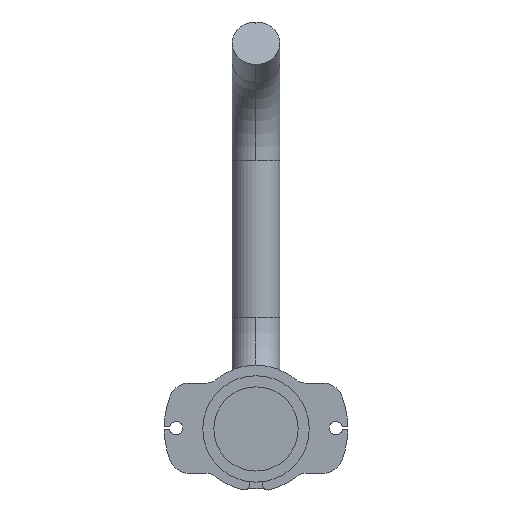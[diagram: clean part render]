
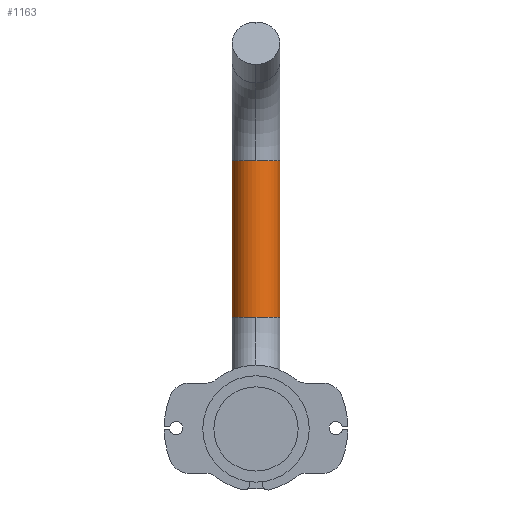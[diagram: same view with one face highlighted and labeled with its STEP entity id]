
A CAD part, front view. The second image highlights one B-rep face of the part: STEP entity #1163.
In plain terms, the highlighted cylindrical face has radius 9 mm (diameter 18 mm), a partial arc.
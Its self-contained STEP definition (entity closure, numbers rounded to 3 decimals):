
#227 = DIRECTION ( 'NONE',  ( 0., 0., 1. ) ) ;
#537 = CIRCLE ( 'NONE', #4687, 9. ) ;
#554 = VERTEX_POINT ( 'NONE', #846 ) ;
#661 = DIRECTION ( 'NONE',  ( 1., 0., 0. ) ) ;
#696 = CARTESIAN_POINT ( 'NONE',  ( -32.175, 97.484, 163.619 ) ) ;
#751 = DIRECTION ( 'NONE',  ( 0., -1., 0. ) ) ;
#846 = CARTESIAN_POINT ( 'NONE',  ( -14.175, 97.484, 163.619 ) ) ;
#986 = CARTESIAN_POINT ( 'NONE',  ( -23.175, 88.484, 163.619 ) ) ;
#1163 = ADVANCED_FACE ( 'NONE', ( #5720 ), #1294, .T. ) ;
#1233 = DIRECTION ( 'NONE',  ( 0., -1., 0. ) ) ;
#1294 = CYLINDRICAL_SURFACE ( 'NONE', #1598, 9. ) ;
#1468 = VECTOR ( 'NONE', #3498, 1000. ) ;
#1534 = EDGE_CURVE ( 'NONE', #6086, #4274, #3435, .T. ) ;
#1598 = AXIS2_PLACEMENT_3D ( 'NONE', #2642, #4044, #661 ) ;
#1642 = CIRCLE ( 'NONE', #5765, 9. ) ;
#1857 = ORIENTED_EDGE ( 'NONE', *, *, #5285, .F. ) ;
#1980 = ORIENTED_EDGE ( 'NONE', *, *, #4787, .T. ) ;
#2003 = VERTEX_POINT ( 'NONE', #986 ) ;
#2180 = CARTESIAN_POINT ( 'NONE',  ( -23.175, 97.484, 163.619 ) ) ;
#2187 = CARTESIAN_POINT ( 'NONE',  ( -23.175, 97.484, 222.426 ) ) ;
#2392 = EDGE_CURVE ( 'NONE', #554, #3535, #4880, .T. ) ;
#2402 = ORIENTED_EDGE ( 'NONE', *, *, #6161, .F. ) ;
#2406 = DIRECTION ( 'NONE',  ( 0., -1., 0. ) ) ;
#2460 = VECTOR ( 'NONE', #227, 1000. ) ;
#2584 = VERTEX_POINT ( 'NONE', #2953 ) ;
#2642 = CARTESIAN_POINT ( 'NONE',  ( -23.175, 97.484, 163.619 ) ) ;
#2797 = DIRECTION ( 'NONE',  ( 0., 0., -1. ) ) ;
#2852 = CARTESIAN_POINT ( 'NONE',  ( -23.175, 97.484, 222.426 ) ) ;
#2953 = CARTESIAN_POINT ( 'NONE',  ( -32.175, 97.484, 163.619 ) ) ;
#3035 = CARTESIAN_POINT ( 'NONE',  ( -14.175, 97.484, 163.619 ) ) ;
#3048 = LINE ( 'NONE', #696, #2460 ) ;
#3435 = CIRCLE ( 'NONE', #3741, 9. ) ;
#3498 = DIRECTION ( 'NONE',  ( 0., 0., 1. ) ) ;
#3535 = VERTEX_POINT ( 'NONE', #5983 ) ;
#3741 = AXIS2_PLACEMENT_3D ( 'NONE', #2852, #2797, #2406 ) ;
#3901 = AXIS2_PLACEMENT_3D ( 'NONE', #5202, #4316, #5231 ) ;
#3993 = ORIENTED_EDGE ( 'NONE', *, *, #1534, .T. ) ;
#4044 = DIRECTION ( 'NONE',  ( 0., 0., 1. ) ) ;
#4063 = ORIENTED_EDGE ( 'NONE', *, *, #2392, .T. ) ;
#4219 = ORIENTED_EDGE ( 'NONE', *, *, #5694, .F. ) ;
#4226 = CARTESIAN_POINT ( 'NONE',  ( -23.175, 88.484, 222.426 ) ) ;
#4274 = VERTEX_POINT ( 'NONE', #5970 ) ;
#4314 = EDGE_LOOP ( 'NONE', ( #1857, #2402, #4219, #4063, #1980, #3993 ) ) ;
#4316 = DIRECTION ( 'NONE',  ( 0., 0., -1. ) ) ;
#4687 = AXIS2_PLACEMENT_3D ( 'NONE', #2187, #5216, #1233 ) ;
#4787 = EDGE_CURVE ( 'NONE', #3535, #6086, #537, .T. ) ;
#4880 = LINE ( 'NONE', #3035, #1468 ) ;
#5202 = CARTESIAN_POINT ( 'NONE',  ( -23.175, 97.484, 163.619 ) ) ;
#5216 = DIRECTION ( 'NONE',  ( 0., 0., -1. ) ) ;
#5231 = DIRECTION ( 'NONE',  ( 0., -1., 0. ) ) ;
#5285 = EDGE_CURVE ( 'NONE', #2584, #4274, #3048, .T. ) ;
#5574 = DIRECTION ( 'NONE',  ( 0., 0., -1. ) ) ;
#5602 = CIRCLE ( 'NONE', #3901, 9. ) ;
#5694 = EDGE_CURVE ( 'NONE', #554, #2003, #1642, .T. ) ;
#5720 = FACE_OUTER_BOUND ( 'NONE', #4314, .T. ) ;
#5765 = AXIS2_PLACEMENT_3D ( 'NONE', #2180, #5574, #751 ) ;
#5970 = CARTESIAN_POINT ( 'NONE',  ( -32.175, 97.484, 222.426 ) ) ;
#5983 = CARTESIAN_POINT ( 'NONE',  ( -14.175, 97.484, 222.426 ) ) ;
#6086 = VERTEX_POINT ( 'NONE', #4226 ) ;
#6161 = EDGE_CURVE ( 'NONE', #2003, #2584, #5602, .T. ) ;
